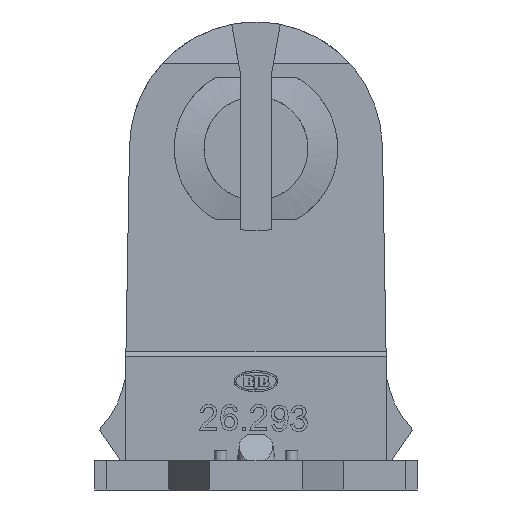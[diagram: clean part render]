
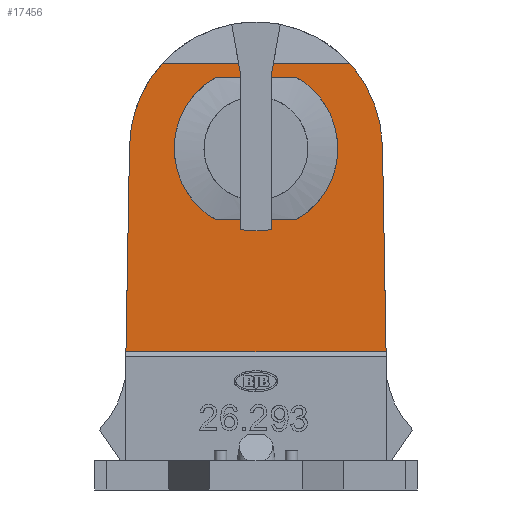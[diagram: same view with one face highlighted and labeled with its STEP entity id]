
A CAD part, front view. The second image highlights one B-rep face of the part: STEP entity #17456.
In plain terms, the highlighted planar face has unit normal (0, -1, 0).
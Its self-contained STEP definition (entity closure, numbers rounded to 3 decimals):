
#9121=CARTESIAN_POINT(' ',(-12.492,-8.3,-19.5));
#9122=VERTEX_POINT(' ',#9121);
#9136=CARTESIAN_POINT(' ',(-12.492,-8.3,-19.5));
#9141=DIRECTION(' ',(0.017,0.,1.));
#9146=VECTOR(' ',#9141,1.);
#9151=LINE(' ',#9136,#9146);
#9156=CARTESIAN_POINT(' ',(-12.148,-8.3,0.212));
#9157=VERTEX_POINT(' ',#9156);
#9161=EDGE_CURVE(' ',#9122,#9157,#9151,.T.);
#9311=CARTESIAN_POINT(' ',(10.476,-8.3,6.154));
#9312=VERTEX_POINT(' ',#9311);
#9336=CARTESIAN_POINT(' ',(0.,-8.3,0.));
#9341=DIRECTION(' ',(0.,1.,0.));
#9346=DIRECTION(' ',(-1.,0.,0.017));
#9351=AXIS2_PLACEMENT_3D(' ',#9336,#9341,#9346);
#9356=CIRCLE(' ',#9351,12.15);
#9361=CARTESIAN_POINT(' ',(-8.984,-8.3,8.18));
#9362=VERTEX_POINT(' ',#9361);
#9366=EDGE_CURVE(' ',#9157,#9362,#9356,.T.);
#9551=CARTESIAN_POINT(' ',(8.984,-8.3,8.18));
#9552=VERTEX_POINT(' ',#9551);
#9566=CARTESIAN_POINT(' ',(0.001,-8.3,0.));
#9571=DIRECTION(' ',(0.,1.,0.));
#9576=DIRECTION(' ',(0.739,0.,0.673));
#9581=AXIS2_PLACEMENT_3D(' ',#9566,#9571,#9576);
#9586=CIRCLE(' ',#9581,12.149);
#9591=EDGE_CURVE(' ',#9552,#9312,#9586,.T.);
#10031=CARTESIAN_POINT(' ',(0.,-8.3,0.));
#10036=DIRECTION(' ',(0.,1.,0.));
#10041=DIRECTION(' ',(0.862,0.,0.507));
#10046=AXIS2_PLACEMENT_3D(' ',#10031,#10036,#10041);
#10051=CIRCLE(' ',#10046,12.15);
#10056=CARTESIAN_POINT(' ',(12.148,-8.3,0.212));
#10057=VERTEX_POINT(' ',#10056);
#10061=EDGE_CURVE(' ',#9312,#10057,#10051,.T.);
#10191=CARTESIAN_POINT(' ',(12.148,-8.3,0.212));
#10196=DIRECTION(' ',(0.017,0.,-1.));
#10201=VECTOR(' ',#10196,1.);
#10206=LINE(' ',#10191,#10201);
#10211=CARTESIAN_POINT(' ',(12.492,-8.3,-19.5));
#10212=VERTEX_POINT(' ',#10211);
#10216=EDGE_CURVE(' ',#10057,#10212,#10206,.T.);
#16746=CARTESIAN_POINT(' ',(12.492,-8.3,-19.5));
#16751=DIRECTION(' ',(-1.,0.,0.));
#16756=VECTOR(' ',#16751,1.);
#16761=LINE(' ',#16746,#16756);
#16766=EDGE_CURVE(' ',#10212,#9122,#16761,.T.);
#16856=CARTESIAN_POINT(' ',(-12.492,-8.3,-19.5));
#16861=DIRECTION(' ',(0.,-1.,0.));
#16866=DIRECTION(' ',(1.,0.,0.));
#16871=AXIS2_PLACEMENT_3D(' ',#16856,#16861,#16866);
#16876=PLANE(' ',#16871);
#16881=CARTESIAN_POINT(' ',(-3.834,-8.3,6.85));
#16886=DIRECTION(' ',(1.,0.,0.));
#16891=VECTOR(' ',#16886,1.);
#16896=LINE(' ',#16881,#16891);
#16901=CARTESIAN_POINT(' ',(-3.834,-8.3,6.85));
#16902=VERTEX_POINT(' ',#16901);
#16906=CARTESIAN_POINT(' ',(-1.5,-8.3,6.85));
#16907=VERTEX_POINT(' ',#16906);
#16911=EDGE_CURVE(' ',#16902,#16907,#16896,.T.);
#16916=ORIENTED_EDGE(' ',*,*,#16911,.T.);
#16921=CARTESIAN_POINT(' ',(-1.5,-8.3,6.85));
#16926=DIRECTION(' ',(0.,0.,1.));
#16931=VECTOR(' ',#16926,1.);
#16936=LINE(' ',#16921,#16931);
#16941=CARTESIAN_POINT(' ',(-1.5,-8.3,7.188));
#16942=VERTEX_POINT(' ',#16941);
#16946=EDGE_CURVE(' ',#16907,#16942,#16936,.T.);
#16951=ORIENTED_EDGE(' ',*,*,#16946,.T.);
#16956=CARTESIAN_POINT(' ',(-1.5,-8.3,7.188));
#16961=DIRECTION(' ',(-0.174,0.,0.985));
#16966=VECTOR(' ',#16961,1.);
#16971=LINE(' ',#16956,#16966);
#16976=CARTESIAN_POINT(' ',(-1.675,-8.3,8.18));
#16977=VERTEX_POINT(' ',#16976);
#16981=EDGE_CURVE(' ',#16942,#16977,#16971,.T.);
#16986=ORIENTED_EDGE(' ',*,*,#16981,.T.);
#16991=CARTESIAN_POINT(' ',(-1.675,-8.3,8.18));
#16996=DIRECTION(' ',(-1.,0.,0.));
#17001=VECTOR(' ',#16996,1.);
#17006=LINE(' ',#16991,#17001);
#17011=EDGE_CURVE(' ',#16977,#9362,#17006,.T.);
#17016=ORIENTED_EDGE(' ',*,*,#17011,.T.);
#17021=ORIENTED_EDGE(' ',*,*,#9366,.F.);
#17026=ORIENTED_EDGE(' ',*,*,#9161,.F.);
#17031=ORIENTED_EDGE(' ',*,*,#16766,.F.);
#17036=ORIENTED_EDGE(' ',*,*,#10216,.F.);
#17041=ORIENTED_EDGE(' ',*,*,#10061,.F.);
#17046=ORIENTED_EDGE(' ',*,*,#9591,.F.);
#17051=CARTESIAN_POINT(' ',(8.984,-8.3,8.18));
#17056=DIRECTION(' ',(-1.,0.,0.));
#17061=VECTOR(' ',#17056,1.);
#17066=LINE(' ',#17051,#17061);
#17071=CARTESIAN_POINT(' ',(1.675,-8.3,8.18));
#17072=VERTEX_POINT(' ',#17071);
#17076=EDGE_CURVE(' ',#9552,#17072,#17066,.T.);
#17081=ORIENTED_EDGE(' ',*,*,#17076,.T.);
#17086=CARTESIAN_POINT(' ',(1.675,-8.3,8.18));
#17091=DIRECTION(' ',(-0.174,0.,-0.985));
#17096=VECTOR(' ',#17091,1.);
#17101=LINE(' ',#17086,#17096);
#17106=CARTESIAN_POINT(' ',(1.5,-8.3,7.188));
#17107=VERTEX_POINT(' ',#17106);
#17111=EDGE_CURVE(' ',#17072,#17107,#17101,.T.);
#17116=ORIENTED_EDGE(' ',*,*,#17111,.T.);
#17121=CARTESIAN_POINT(' ',(1.5,-8.3,7.188));
#17126=DIRECTION(' ',(0.,0.,-1.));
#17131=VECTOR(' ',#17126,1.);
#17136=LINE(' ',#17121,#17131);
#17141=CARTESIAN_POINT(' ',(1.5,-8.3,6.85));
#17142=VERTEX_POINT(' ',#17141);
#17146=EDGE_CURVE(' ',#17107,#17142,#17136,.T.);
#17151=ORIENTED_EDGE(' ',*,*,#17146,.T.);
#17156=CARTESIAN_POINT(' ',(1.5,-8.3,6.85));
#17161=DIRECTION(' ',(1.,0.,0.));
#17166=VECTOR(' ',#17161,1.);
#17171=LINE(' ',#17156,#17166);
#17176=CARTESIAN_POINT(' ',(3.834,-8.3,6.85));
#17177=VERTEX_POINT(' ',#17176);
#17181=EDGE_CURVE(' ',#17142,#17177,#17171,.T.);
#17186=ORIENTED_EDGE(' ',*,*,#17181,.T.);
#17191=CARTESIAN_POINT(' ',(0.,-8.3,0.));
#17196=DIRECTION(' ',(0.,1.,0.));
#17201=DIRECTION(' ',(0.488,0.,0.873));
#17206=AXIS2_PLACEMENT_3D(' ',#17191,#17196,#17201);
#17211=CIRCLE(' ',#17206,7.85);
#17216=CARTESIAN_POINT(' ',(3.834,-8.3,-6.85));
#17217=VERTEX_POINT(' ',#17216);
#17221=EDGE_CURVE(' ',#17177,#17217,#17211,.T.);
#17226=ORIENTED_EDGE(' ',*,*,#17221,.T.);
#17231=CARTESIAN_POINT(' ',(3.834,-8.3,-6.85));
#17236=DIRECTION(' ',(-1.,0.,0.));
#17241=VECTOR(' ',#17236,1.);
#17246=LINE(' ',#17231,#17241);
#17251=CARTESIAN_POINT(' ',(1.5,-8.3,-6.85));
#17252=VERTEX_POINT(' ',#17251);
#17256=EDGE_CURVE(' ',#17217,#17252,#17246,.T.);
#17261=ORIENTED_EDGE(' ',*,*,#17256,.T.);
#17266=CARTESIAN_POINT(' ',(1.5,-8.3,-6.85));
#17271=DIRECTION(' ',(0.,0.,-1.));
#17276=VECTOR(' ',#17271,1.);
#17281=LINE(' ',#17266,#17276);
#17286=CARTESIAN_POINT(' ',(1.5,-8.3,-7.782));
#17287=VERTEX_POINT(' ',#17286);
#17291=EDGE_CURVE(' ',#17252,#17287,#17281,.T.);
#17296=ORIENTED_EDGE(' ',*,*,#17291,.T.);
#17301=CARTESIAN_POINT(' ',(0.,-8.3,0.));
#17306=DIRECTION(' ',(0.,1.,0.));
#17311=DIRECTION(' ',(0.189,0.,-0.982));
#17316=AXIS2_PLACEMENT_3D(' ',#17301,#17306,#17311);
#17321=CIRCLE(' ',#17316,7.925);
#17326=CARTESIAN_POINT(' ',(-1.5,-8.3,-7.782));
#17327=VERTEX_POINT(' ',#17326);
#17331=EDGE_CURVE(' ',#17287,#17327,#17321,.T.);
#17336=ORIENTED_EDGE(' ',*,*,#17331,.T.);
#17341=CARTESIAN_POINT(' ',(-1.5,-8.3,-7.782));
#17346=DIRECTION(' ',(0.,0.,1.));
#17351=VECTOR(' ',#17346,1.);
#17356=LINE(' ',#17341,#17351);
#17361=CARTESIAN_POINT(' ',(-1.5,-8.3,-6.85));
#17362=VERTEX_POINT(' ',#17361);
#17366=EDGE_CURVE(' ',#17327,#17362,#17356,.T.);
#17371=ORIENTED_EDGE(' ',*,*,#17366,.T.);
#17376=CARTESIAN_POINT(' ',(-1.5,-8.3,-6.85));
#17381=DIRECTION(' ',(-1.,0.,0.));
#17386=VECTOR(' ',#17381,1.);
#17391=LINE(' ',#17376,#17386);
#17396=CARTESIAN_POINT(' ',(-3.834,-8.3,-6.85));
#17397=VERTEX_POINT(' ',#17396);
#17401=EDGE_CURVE(' ',#17362,#17397,#17391,.T.);
#17406=ORIENTED_EDGE(' ',*,*,#17401,.T.);
#17411=CARTESIAN_POINT(' ',(0.,-8.3,0.));
#17416=DIRECTION(' ',(0.,1.,0.));
#17421=DIRECTION(' ',(-0.488,0.,-0.873));
#17426=AXIS2_PLACEMENT_3D(' ',#17411,#17416,#17421);
#17431=CIRCLE(' ',#17426,7.85);
#17436=EDGE_CURVE(' ',#17397,#16902,#17431,.T.);
#17441=ORIENTED_EDGE(' ',*,*,#17436,.T.);
#17446=EDGE_LOOP(' ',(#16916,#16951,#16986,#17016,#17021,#17026,#17031,#17036,#17041,#17046,#17081,#17116,#17151,#17186,#17226,#17261,#17296,#17336,#17371,#17406,#17441));
#17451=FACE_OUTER_BOUND(' ',#17446,.T.);
#17456=ADVANCED_FACE(' ',(#17451),#16876,.T.);
